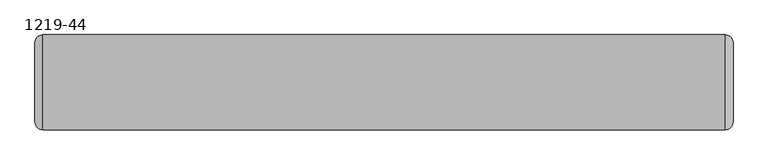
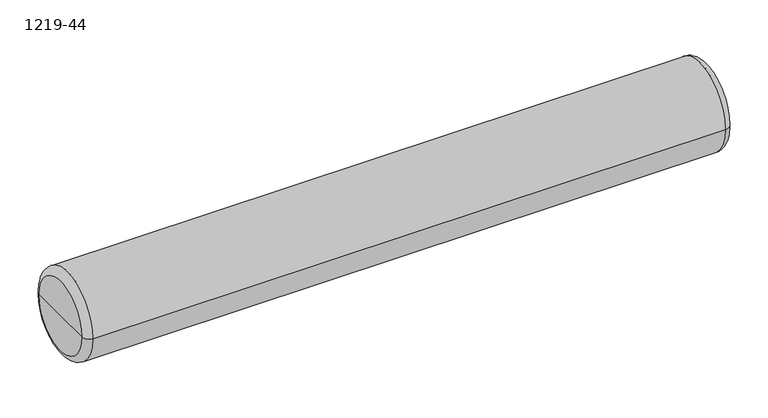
"""IFC4 building model written with IfcOpenShell, lengths in millimetres: furniture geometry, Laguna-Bolster-Pillow-ERG : 1219-44."""

import ifcopenshell
import ifcopenshell.guid

model = None  # the IFC model being written
_history = None  # IfcOwnerHistory: only IFC2X3 demands one
_inside = {}  # id of a spatial element -> (the spatial element, [elements in it])
_under = {}  # id of a project, library or spatial element -> (it, [spatial elements below it])
_declared = {}  # id of a project -> (the project, [libraries it declares])
_typed = {}  # id of a type object -> (the type object, [elements of that type])
_made_of = {}  # id of a material, layer set ... -> (it, [elements and type objects made of it])


def new_model(schema):
    """Start an empty IFC model of exactly this schema.

    Asked for "IFC4X3", IfcOpenShell would pick the latest addendum, in which some entities
    have other attributes; the version numbers below select the first issue.
    IFC2X3 requires an IfcOwnerHistory on every rooted entity: one is made here for all.
    """
    global model, _history
    if schema == "IFC4X3":
        model = ifcopenshell.file(schema_version=(4, 3, 0, 0))
    else:
        model = ifcopenshell.file(schema=schema)
    _inside.clear()
    _under.clear()
    _declared.clear()
    _typed.clear()
    _made_of.clear()
    _history = None
    if model.schema == "IFC2X3":
        org = make("IfcOrganization", Name="unknown")
        user = make(
            "IfcPersonAndOrganization",
            ThePerson=make("IfcPerson", FamilyName="unknown"),
            TheOrganization=org,
        )
        app = make(
            "IfcApplication",
            ApplicationDeveloper=org,
            Version="unknown",
            ApplicationFullName="unknown",
            ApplicationIdentifier="unknown",
        )
        _history = make(
            "IfcOwnerHistory",
            OwningUser=user,
            OwningApplication=app,
            ChangeAction="ADDED",
            CreationDate=0,
        )
    return model


def make(cls, **values):
    """One entity of the class cls with the attributes given. An attribute that is None is left unset."""
    return model.create_entity(
        cls, **{name: value for name, value in values.items() if value is not None}
    )


def rooted(cls, **values):
    """An entity with a GlobalId (a new one), such as an element, a storey or a relation."""
    return make(cls, GlobalId=ifcopenshell.guid.new(), OwnerHistory=_history, **values)


def si_unit(unit_type, name, prefix=None):
    """IfcSIUnit, for example si_unit("LENGTHUNIT", "METRE", prefix="MILLI")."""
    return make("IfcSIUnit", UnitType=unit_type, Prefix=prefix, Name=name)


def assignment(units):
    """IfcUnitAssignment: the units of a project."""
    return None if units is None else make("IfcUnitAssignment", Units=units)


def point(xyz):
    """IfcCartesianPoint."""
    return None if xyz is None else make("IfcCartesianPoint", Coordinates=xyz)


def direction(xyz):
    """IfcDirection."""
    return None if xyz is None else make("IfcDirection", DirectionRatios=xyz)


def frame(location, z_axis=None, x_axis=None):
    """IfcAxis2Placement3D, a coordinate frame: its origin and axes. An axis left out is left unset."""
    return make(
        "IfcAxis2Placement3D",
        Location=point(location),
        Axis=direction(z_axis),
        RefDirection=direction(x_axis),
    )


def origin():
    """The frame at (0, 0, 0) with its axes left unset."""
    return frame((0.0, 0.0, 0.0))


def place(relative_to, where):
    """IfcLocalPlacement: puts the frame where relative to a parent placement (None: the world)."""
    return make(
        "IfcLocalPlacement", PlacementRelTo=relative_to, RelativePlacement=where
    )


def context(
    kind, dimensions, precision=None, world=None, true_north=None, identifier=None
):
    """IfcGeometricRepresentationContext, for example the 3D "Model" context."""
    return make(
        "IfcGeometricRepresentationContext",
        ContextIdentifier=identifier,
        ContextType=kind,
        CoordinateSpaceDimension=dimensions,
        Precision=precision,
        WorldCoordinateSystem=world,
        TrueNorth=true_north,
    )


def project(units=None, contexts=None):
    """IfcProject with its units and contexts."""
    return rooted(
        "IfcProject",
        Name="project",
        RepresentationContexts=contexts,
        UnitsInContext=assignment(units),
    )


def spatial(cls, under=None, at=None, **own):
    """A site, building, storey or space (cls), placed at a placement, below another one or the project."""
    s = rooted(cls, ObjectPlacement=at, **own)
    if under is not None:
        _under.setdefault(under.id(), (under, []))[1].append(s)
    return s


def circle_curve(where, radius):
    """IfcCircle in the frame where."""
    return make("IfcCircle", Position=where, Radius=radius)


def ellipse_curve(where, semi_axis1, semi_axis2):
    """IfcEllipse in the frame where."""
    return make(
        "IfcEllipse", Position=where, SemiAxis1=semi_axis1, SemiAxis2=semi_axis2
    )


def trimmed(basis, trim1, trim2, sense, master):
    """IfcTrimmedCurve: the piece of a basis curve between two trims."""
    return make(
        "IfcTrimmedCurve",
        BasisCurve=basis,
        Trim1=trim1,
        Trim2=trim2,
        SenseAgreement=sense,
        MasterRepresentation=master,
    )


def shape(context_of_items, identifier, shape_type, items):
    """IfcShapeRepresentation: the items that make up one representation, for example the "Body"."""
    return make(
        "IfcShapeRepresentation",
        ContextOfItems=context_of_items,
        RepresentationIdentifier=identifier,
        RepresentationType=shape_type,
        Items=items,
    )


def source(mapping_origin, context_of_items, identifier, shape_type, items):
    """IfcRepresentationMap: a shape defined once, which mapped items show again and again."""
    return make(
        "IfcRepresentationMap",
        MappingOrigin=mapping_origin,
        MappedRepresentation=shape(context_of_items, identifier, shape_type, items),
    )


def transform(
    local_origin,
    x_axis=None,
    y_axis=None,
    z_axis=None,
    scale=None,
    scale2=None,
    scale3=None,
    uniform=True,
):
    """IfcCartesianTransformationOperator3D, or its non-uniform kind. x_axis, y_axis, z_axis: its Axis1, 2, 3."""
    if uniform:
        return make(
            "IfcCartesianTransformationOperator3D",
            Axis1=direction(x_axis),
            Axis2=direction(y_axis),
            LocalOrigin=point(local_origin),
            Scale=scale,
            Axis3=direction(z_axis),
        )
    return make(
        "IfcCartesianTransformationOperator3DnonUniform",
        Axis1=direction(x_axis),
        Axis2=direction(y_axis),
        LocalOrigin=point(local_origin),
        Scale=scale,
        Axis3=direction(z_axis),
        Scale2=scale2,
        Scale3=scale3,
    )


def mapped(mapping_source, mapping_target):
    """IfcMappedItem: shows the shape of a source again, moved by a transform."""
    return make(
        "IfcMappedItem", MappingSource=mapping_source, MappingTarget=mapping_target
    )


def made_of(thing, what):
    """Note that an element or type object is made of a material, layer set ...; save() writes the relation."""
    if what is not None:
        _made_of.setdefault(what.id(), (what, []))[1].append(thing)
    return thing


def element(
    cls,
    number,
    at=None,
    inside=None,
    cuts=None,
    type_object=None,
    material=None,
    context=None,
    identifier="Body",
    shape_type=None,
    held_by="IfcProductDefinitionShape",
    body=None,
    shapes=None,
    **own,
):
    """One element of the class cls, such as IfcWall. Its Tag is "e" and its number.

    at: its placement. inside: the storey or other place that contains it. cuts: it is an
    opening in that element (IfcRelVoidsElement). A single representation is given by context,
    identifier, shape_type and body (its items); several are given by shapes. held_by: the class
    of the entity that holds the representations. save() writes the other relations.
    """
    e = rooted(cls, Tag="e%d" % number, ObjectPlacement=at, **own)
    if body is not None:
        shapes = [shape(context, identifier, shape_type, body)]
    if shapes is not None:
        e.Representation = make(held_by, Representations=shapes)
    if inside is not None:
        _inside.setdefault(inside.id(), (inside, []))[1].append(e)
    if cuts is not None:
        rooted(
            "IfcRelVoidsElement", RelatingBuildingElement=cuts, RelatedOpeningElement=e
        )
    if type_object is not None:
        _typed.setdefault(type_object.id(), (type_object, []))[1].append(e)
    return made_of(e, material)


def aggregate(whole, parts):
    """IfcRelAggregates: a whole, such as a stair, and the parts it consists of."""
    return rooted("IfcRelAggregates", RelatingObject=whole, RelatedObjects=parts)


def save(model, path):
    """Write the relations noted so far, then the file.

    IfcRelAggregates (storeys below a building ...), IfcRelContainedInSpatialStructure (elements
    in a storey), IfcRelDefinesByType, IfcRelAssociatesMaterial and IfcRelDeclares: one each for
    every whole, place, type object, material and project.
    """
    for whole, parts in _under.values():
        aggregate(whole, parts)
    for where, things in _inside.values():
        rooted(
            "IfcRelContainedInSpatialStructure",
            RelatedElements=things,
            RelatingStructure=where,
        )
    for kind, things in _typed.values():
        rooted("IfcRelDefinesByType", RelatedObjects=things, RelatingType=kind)
    for what, things in _made_of.values():
        rooted("IfcRelAssociatesMaterial", RelatedObjects=things, RelatingMaterial=what)
    for by, libraries in _declared.values():
        rooted("IfcRelDeclares", RelatingContext=by, RelatedDefinitions=libraries)
    model.write(path)


def plane_surface(at):
    """IfcPlane: the flat surface through the origin of the frame at, square to its z axis."""
    return make("IfcPlane", Position=at)


def cylinder_surface(at, radius):
    """IfcCylindricalSurface: all points at the distance radius from the z axis of the frame at."""
    return make("IfcCylindricalSurface", Position=at, Radius=radius)


def revolved_surface(curve, axis_point, axis_direction):
    """IfcSurfaceOfRevolution: the curve turned about the line through axis_point along axis_direction."""
    return make(
        "IfcSurfaceOfRevolution",
        SweptCurve=make("IfcArbitraryOpenProfileDef", ProfileType="CURVE", Curve=curve),
        AxisPosition=make("IfcAxis1Placement", Location=point(axis_point), Axis=direction(axis_direction)),
    )


def advanced_brep(points, edges, surfaces, faces):
    """IfcAdvancedBrep: a solid bounded by faces that lie on surfaces and meet in shared edges.

    An edge is (start, end): straight between two places in points (the first is 0);
    or (start, end, curve); or (start, end, curve, False) where it runs against its curve.
    A face is (place in surfaces, loops), or (place, loops, False) where it looks against
    its surface's normal. A loop lists edges by number (the first is 1), with a minus sign
    where the edge is run from its end to its start. The first loop is the outer one.
    """
    corners = [point(p) for p in points]
    vertices = [make("IfcVertexPoint", VertexGeometry=c) for c in corners]
    made = []
    for start, end, *more in edges:
        made.append(
            make(
                "IfcEdgeCurve",
                EdgeStart=vertices[start],
                EdgeEnd=vertices[end],
                EdgeGeometry=more[0] if more else make("IfcPolyline", Points=[corners[start], corners[end]]),
                SameSense=more[1] if len(more) > 1 else True,
            )
        )
    hull = []
    for where, loops, *sense in faces:
        bounds = []
        for j, loop in enumerate(loops):
            ring = [make("IfcOrientedEdge", EdgeElement=made[abs(k) - 1], Orientation=k > 0) for k in loop]
            bounds.append(
                make(
                    "IfcFaceOuterBound" if j == 0 else "IfcFaceBound",
                    Bound=make("IfcEdgeLoop", EdgeList=ring),
                    Orientation=True,
                )
            )
        hull.append(make("IfcAdvancedFace", Bounds=bounds, FaceSurface=surfaces[where], SameSense=sense[0] if sense else True))
    return make("IfcAdvancedBrep", Outer=make("IfcClosedShell", CfsFaces=hull))


def furniture_1219_44_79f136f0(model_context):
    return source(origin(), model_context, "Body", "AdvancedBrep", [
        advanced_brep(
        [(-4662.7421763, 1005.5558502, 508.0), (-4662.7421763, 1069.0558502, 508.0), (-4662.7421763, 942.0558502, 508.0), (-3545.1421763, 942.0558502, 508.0), (-3545.1421763, 1069.0558502, 508.0), (-3545.1421763, 1005.5558502, 508.0), (-3557.8421763, 929.3558502, 508.0), (-3557.8421763, 1081.7558502, 508.0), (-4650.0421763, 929.3558502, 508.0), (-4650.0421763, 1081.7558502, 508.0)],
        [
            (0, 1),
            (1, 2, circle_curve(frame((-4662.7421763, 1005.5558502, 508.0), z_axis=(-1.0, 0.0, 0.0), x_axis=(0.0, 1.0, 0.0)), 63.5)),
            (2, 0),
            (2, 1, circle_curve(frame((-4662.7421763, 1005.5558502, 508.0), z_axis=(-1.0, 0.0, 0.0), x_axis=(0.0, 1.0, 0.0)), 63.5)),
            (3, 4, circle_curve(frame((-3545.1421763, 1005.5558502, 508.0), z_axis=(1.0, 0.0, 0.0), x_axis=(0.0, 1.0, 0.0)), 63.5)),
            (4, 5),
            (5, 3),
            (4, 3, circle_curve(frame((-3545.1421763, 1005.5558502, 508.0), z_axis=(1.0, 0.0, 0.0), x_axis=(0.0, 1.0, 0.0)), 63.5)),
            (6, 7, circle_curve(frame((-3557.8421763, 1005.5558502, 508.0), z_axis=(1.0, 0.0, 0.0), x_axis=(0.0, 1.0, 0.0)), 76.2)),
            (7, 4, circle_curve(frame((-3557.8421763, 1069.0558502, 508.0), z_axis=(0.0, 0.0, -1.0), x_axis=(0.0, 1.0, 0.0)), 12.7)),
            (3, 6, circle_curve(frame((-3557.8421763, 942.0558502, 508.0), z_axis=(0.0, 0.0, -1.0), x_axis=(0.0, -1.0, 0.0)), 12.7)),
            (7, 6, circle_curve(frame((-3557.8421763, 1005.5558502, 508.0), z_axis=(1.0, 0.0, 0.0), x_axis=(0.0, 1.0, 0.0)), 76.2)),
            (8, 9, circle_curve(frame((-4650.0421763, 1005.5558502, 508.0), z_axis=(1.0, 0.0, 0.0), x_axis=(0.0, 1.0, 0.0)), 76.2)),
            (9, 7),
            (6, 8),
            (9, 8, circle_curve(frame((-4650.0421763, 1005.5558502, 508.0), z_axis=(1.0, 0.0, 0.0), x_axis=(0.0, 1.0, 0.0)), 76.2)),
            (1, 9, circle_curve(frame((-4650.0421763, 1069.0558502, 508.0), z_axis=(0.0, 0.0, -1.0), x_axis=(0.0, 1.0, 0.0)), 12.7)),
            (8, 2, circle_curve(frame((-4650.0421763, 942.0558502, 508.0), z_axis=(0.0, 0.0, -1.0), x_axis=(0.0, -1.0, 0.0)), 12.7)),
        ],
        [
            plane_surface(frame((-4662.7421763, 1005.5558502, 508.0), z_axis=(-1.0, 0.0, 0.0), x_axis=(0.0, 1.0, 0.0))),
            plane_surface(frame((-3545.1421763, 1005.5558502, 508.0), z_axis=(1.0, 0.0, 0.0), x_axis=(0.0, 1.0, 0.0))),
            revolved_surface(trimmed(ellipse_curve(frame((-3557.8421763, 1069.0558502, 508.0), z_axis=(0.0, 0.0, 1.0), x_axis=(0.0, 1.0, 0.0)), 12.7, 12.7), [point((-3545.1421763, 1069.0558502, 508.0))], [point((-3557.8421763, 1081.7558502, 508.0))], True, "CARTESIAN"), (-4662.7421763, 1005.5558502, 508.0), (-1.0, 0.0, 0.0)),
            cylinder_surface(frame((-4662.7421763, 1005.5558502, 508.0), z_axis=(-1.0, 0.0, 0.0), x_axis=(0.0, 1.0, 0.0)), 76.2),
            revolved_surface(trimmed(ellipse_curve(frame((-4650.0421763, 1069.0558502, 508.0), z_axis=(0.0, 0.0, 1.0), x_axis=(0.0, 1.0, 0.0)), 12.7, 12.7), [point((-4650.0421763, 1081.7558502, 508.0))], [point((-4662.7421763, 1069.0558502, 508.0))], True, "CARTESIAN"), (-4662.7421763, 1005.5558502, 508.0), (-1.0, 0.0, 0.0)),
        ],
        [
            (0, [[1, 2, 3]]),
            (0, [[-3, 4, -1]]),
            (1, [[5, 6, 7]]),
            (1, [[8, -7, -6]]),
            (2, [[9, 10, -5, 11]]),
            (2, [[12, -11, -8, -10]]),
            (3, [[13, 14, -9, 15]]),
            (3, [[16, -15, -12, -14]]),
            (4, [[-2, 17, -13, 18]]),
            (4, [[-4, -18, -16, -17]]),
        ],
    ),
    ])


if __name__ == "__main__":
    model = new_model("IFC4")
    model_context = context("Model", 3, world=origin())
    ifc_project = project(units=[si_unit("LENGTHUNIT", "METRE", prefix="MILLI")], contexts=[model_context])
    site = spatial("IfcSite", under=ifc_project)
    building = spatial("IfcBuilding", under=site)
    placement = place(None, origin())
    furniture_1219_44_shape = furniture_1219_44_79f136f0(model_context)
    element("IfcFurniture", 1, ObjectType="Laguna-Bolster-Pillow-ERG : 1219-44", at=placement, inside=building, context=model_context, shape_type="MappedRepresentation", body=[
        mapped(furniture_1219_44_shape, transform((0.0, 0.0, 0.0), x_axis=(1.0, 0.0, 0.0), y_axis=(0.0, 1.0, 0.0), z_axis=(0.0, 0.0, 1.0))),
    ])
    save(model, "model.ifc")
